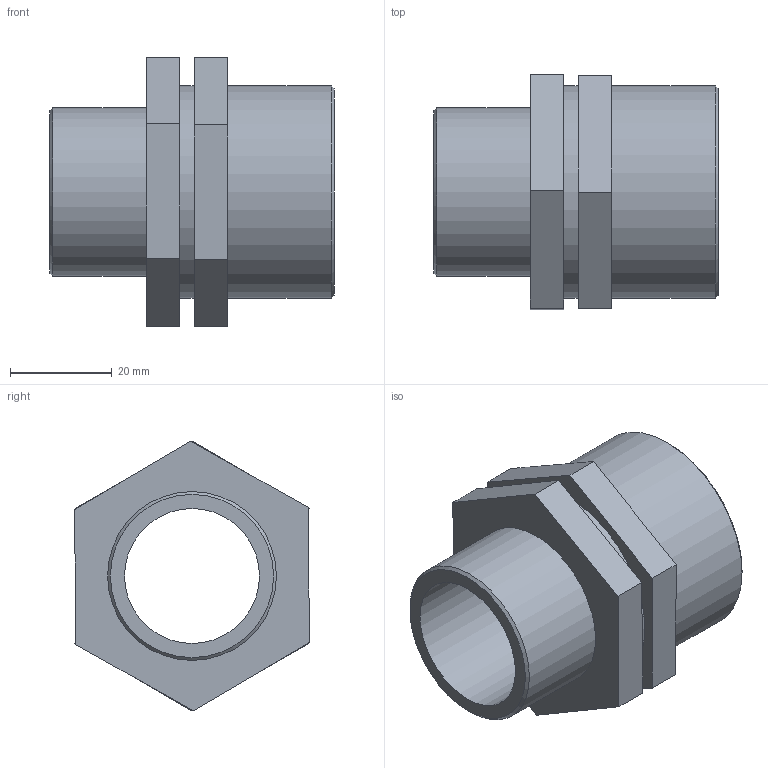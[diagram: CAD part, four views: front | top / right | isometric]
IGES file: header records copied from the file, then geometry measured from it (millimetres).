
Global section: file name: 050605013010_0506050130100A.ipt; native system: Autodesk Inventor 2015; preprocessor: unknown; author: KIM; date: 20170618.093228; units: millimetre
Bounding box: 56 x 46.25 x 53.12 mm (x, y, z)
Volume: 32416.4 mm3; surface area: 15944.3 mm2
Topology: 1 solids, 1 shells, 26 faces, 59 edges, 40 vertices
Faces by surface type: plane 19, cylinder 3, cone 2, revolution 2
Full cylindrical faces by diameter (mm): 33.249 x1, 41.91 x2
